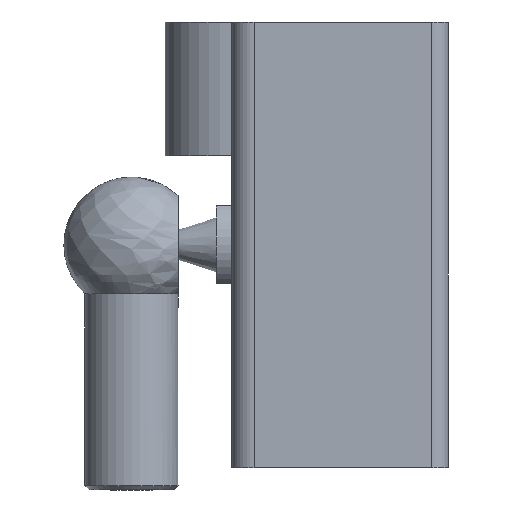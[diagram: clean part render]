
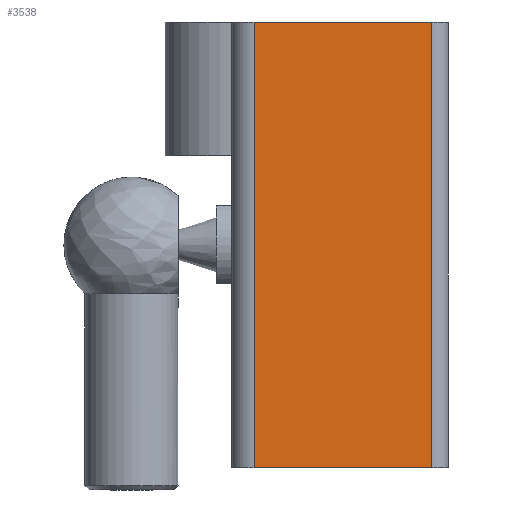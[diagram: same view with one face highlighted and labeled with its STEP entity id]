
A CAD part, left-side view. The second image highlights one B-rep face of the part: STEP entity #3538.
In plain terms, the highlighted planar face has unit normal (-1, 0, 0).
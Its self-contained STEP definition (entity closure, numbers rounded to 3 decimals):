
#55 = PLANE ( 'NONE',  #5765 ) ;
#288 = CARTESIAN_POINT ( 'NONE',  ( -11., 0.336, 40. ) ) ;
#470 = CARTESIAN_POINT ( 'NONE',  ( -11., 0.336, 0. ) ) ;
#655 = EDGE_CURVE ( 'NONE', #5145, #1742, #4611, .T. ) ;
#752 = VERTEX_POINT ( 'NONE', #1557 ) ;
#1088 = DIRECTION ( 'NONE',  ( 0., 0., -1. ) ) ;
#1222 = VECTOR ( 'NONE', #1088, 1000. ) ;
#1254 = CARTESIAN_POINT ( 'NONE',  ( -11., 16.236, 40. ) ) ;
#1448 = DIRECTION ( 'NONE',  ( 0., 0., 1. ) ) ;
#1557 = CARTESIAN_POINT ( 'NONE',  ( -11., 16.236, 0. ) ) ;
#1715 = VERTEX_POINT ( 'NONE', #1254 ) ;
#1742 = VERTEX_POINT ( 'NONE', #288 ) ;
#1870 = ORIENTED_EDGE ( 'NONE', *, *, #2724, .T. ) ;
#1980 = VECTOR ( 'NONE', #4842, 1000. ) ;
#2048 = CARTESIAN_POINT ( 'NONE',  ( -11., 0.336, 0. ) ) ;
#2224 = LINE ( 'NONE', #4504, #4757 ) ;
#2412 = CARTESIAN_POINT ( 'NONE',  ( -11., 0.336, 0. ) ) ;
#2446 = ORIENTED_EDGE ( 'NONE', *, *, #2670, .T. ) ;
#2506 = FACE_OUTER_BOUND ( 'NONE', #4094, .T. ) ;
#2670 = EDGE_CURVE ( 'NONE', #1715, #752, #5056, .T. ) ;
#2724 = EDGE_CURVE ( 'NONE', #1742, #1715, #2224, .T. ) ;
#2933 = ORIENTED_EDGE ( 'NONE', *, *, #655, .T. ) ;
#2955 = EDGE_CURVE ( 'NONE', #752, #5145, #3437, .T. ) ;
#3377 = VECTOR ( 'NONE', #4503, 1000. ) ;
#3437 = LINE ( 'NONE', #2048, #1980 ) ;
#3538 = ADVANCED_FACE ( 'NONE', ( #2506 ), #55, .T. ) ;
#3934 = DIRECTION ( 'NONE',  ( -1., 0., 0. ) ) ;
#4058 = CARTESIAN_POINT ( 'NONE',  ( -11., 16.236, 0. ) ) ;
#4094 = EDGE_LOOP ( 'NONE', ( #2933, #1870, #2446, #5545 ) ) ;
#4235 = CARTESIAN_POINT ( 'NONE',  ( -11., 0.336, 0. ) ) ;
#4503 = DIRECTION ( 'NONE',  ( 0., 0., 1. ) ) ;
#4504 = CARTESIAN_POINT ( 'NONE',  ( -11., 0.336, 40. ) ) ;
#4611 = LINE ( 'NONE', #4235, #3377 ) ;
#4757 = VECTOR ( 'NONE', #5370, 1000. ) ;
#4842 = DIRECTION ( 'NONE',  ( 0., -1., 0. ) ) ;
#5056 = LINE ( 'NONE', #4058, #1222 ) ;
#5145 = VERTEX_POINT ( 'NONE', #470 ) ;
#5370 = DIRECTION ( 'NONE',  ( 0., 1., 0. ) ) ;
#5545 = ORIENTED_EDGE ( 'NONE', *, *, #2955, .T. ) ;
#5765 = AXIS2_PLACEMENT_3D ( 'NONE', #2412, #3934, #1448 ) ;
